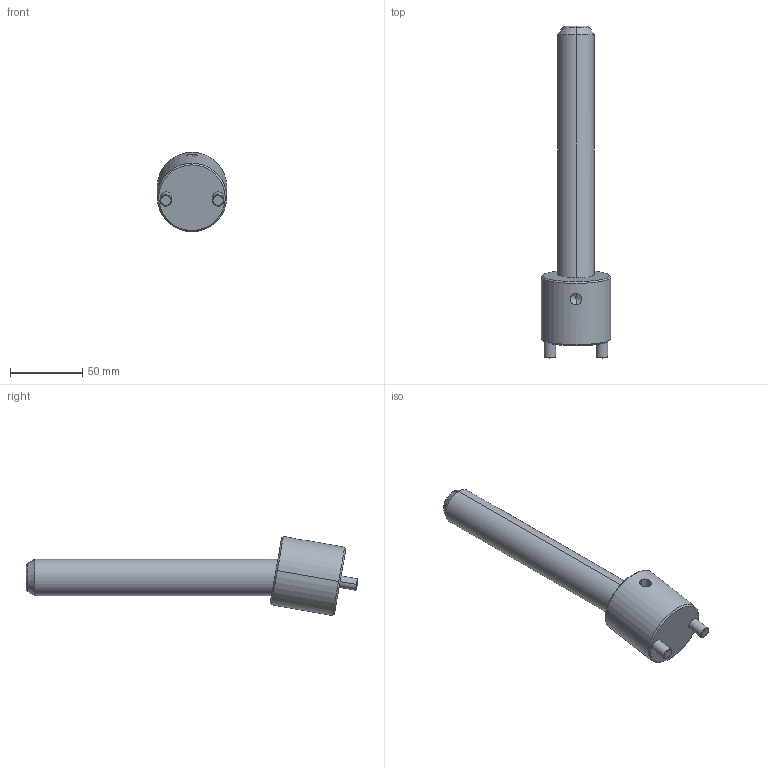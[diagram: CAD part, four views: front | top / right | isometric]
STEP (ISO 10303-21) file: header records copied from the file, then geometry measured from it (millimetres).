
FILE_DESCRIPTION(('CATIA V5 STEP Exchange'),'2;1');
FILE_NAME('C:\Users\Raffaele\Desktop\3D BOLEX\3D FILES CF BOLEX\19-INCLINED ASSEMBLY REF_CI\CI1025175.stp','2019-06-21T13:58:05+00:00',('none'),('none'),'CATIA Version 5 Release 20 GA (IN-10)','CATIA V5 STEP AP203','none');
FILE_SCHEMA(('CONFIG_CONTROL_DESIGN'));
Length unit declared in the file: millimetre
Products named in the file (1): CI1025175
Assembly tree (2 placements, depth 2):
  CI1025175
    #58
    #608
Bounding box: 48 x 229.61 x 54.74 mm (x, y, z)
Volume: 164973.8 mm3; surface area: 31347.2 mm2
Topology: 2 solids, 2 shells, 39 faces, 82 edges, 47 vertices
Faces by surface type: cone 14, cylinder 14, plane 7, torus 4
Entity records: 1536 total; most frequent: CARTESIAN_POINT 677, ORIENTED_EDGE 160, DIRECTION 145, EDGE_CURVE 80, AXIS2_PLACEMENT_3D 72, VERTEX_POINT 47, EDGE_LOOP 43, ADVANCED_FACE 39
